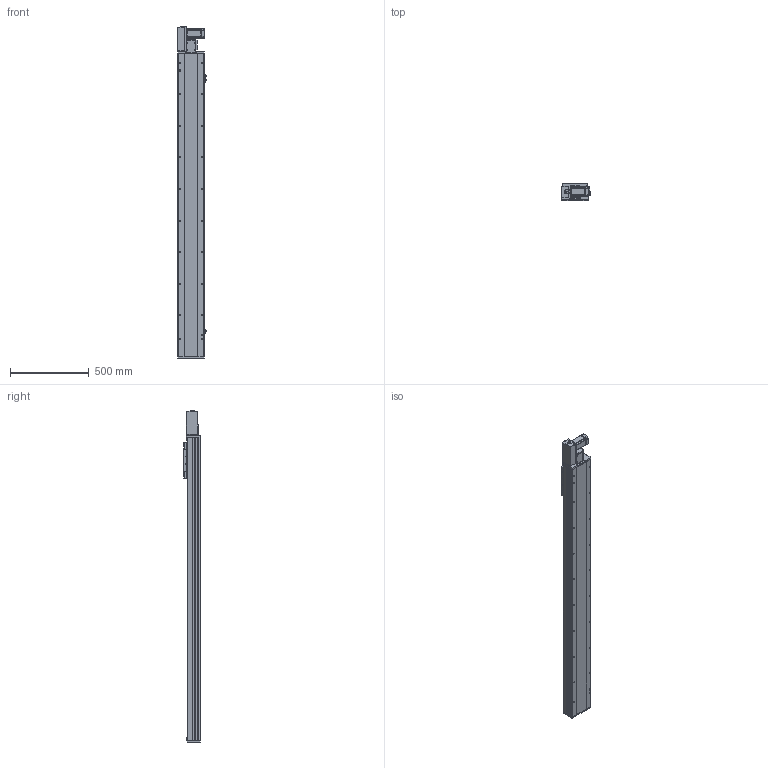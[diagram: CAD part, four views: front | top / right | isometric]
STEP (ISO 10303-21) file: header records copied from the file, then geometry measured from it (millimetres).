
FILE_DESCRIPTION (( 'STEP AP214' ), '1' );
FILE_NAME ('TPE17-L40-1600-L-T40-C4.STEP', '2023-04-12T02:28:45', ( '' ), ( '' ), 'SwSTEP 2.0', 'SolidWorks 2020', '' );
FILE_SCHEMA (( 'AUTOMOTIVE_DESIGN' ));
Length unit declared in the file: millimetre
Products named in the file (12): 葩璃 TPE17-L-002 耜裔ZTMZ-135-04^TPE17-L40-L-T40-C4; 葩璃 詩湍110^TPE17-L40-L-T40-C4; 葩璃 TPE17 賑雄殤^TPE17-L40-L-T40-C4; TPE17-L40-1600-L-T40-C4; 葩璃 侂狟400W^TPE17-L40-L-T40-C4; hex nuts, style 1-grades ab gb_GB_FASTENER_NUT_SNAB1 M3-N; 葩璃 TPE17-L-007 々湍釱MZ-169x88^TPE17-L40-L-T40-C4_TPE17; 葩璃 TPT14-L-009 萇儂啣^TPE17-L40-L-T40-C4_400W; 葩璃 TPE17-L-001 菁釱MZ-170-01^TPE17-L40-L-T40-C4; hexagon head bolts-full thread gb_GB_FASTENER_BOLT_STBAB A M5X16-N; hexagon socket head cap screws gb_GB_FASTENER_SCREWS_HSHCS M3X6-N; 葩璃 pm-t65-672^TPE17-L40-L-T40-C4
Assembly tree (24 placements, depth 2):
  TPE17-L40-1600-L-T40-C4
    葩璃 TPE17-L-001 菁釱MZ-170-01^TPE17-L40-L-T40-C4
    葩璃 TPE17-L-002 耜裔ZTMZ-135-04^TPE17-L40-L-T40-C4  x2
    葩璃 詩湍110^TPE17-L40-L-T40-C4
    葩璃 TPE17-L-007 々湍釱MZ-169x88^TPE17-L40-L-T40-C4_TPE17
    葩璃 TPT14-L-009 萇儂啣^TPE17-L40-L-T40-C4_400W
    葩璃 TPE17 賑雄殤^TPE17-L40-L-T40-C4
    葩璃 pm-t65-672^TPE17-L40-L-T40-C4  x3
    葩璃 侂狟400W^TPE17-L40-L-T40-C4
    hexagon socket head cap screws gb_GB_FASTENER_SCREWS_HSHCS M3X6-N  x6
    hex nuts, style 1-grades ab gb_GB_FASTENER_NUT_SNAB1 M3-N  x6
    hexagon head bolts-full thread gb_GB_FASTENER_BOLT_STBAB A M5X16-N
Bounding box: 183.7 x 107 x 2103.65 mm (x, y, z)
Volume: 17931192.4 mm3; surface area: 2338256.3 mm2
Topology: 35 solids, 35 shells, 1722 faces, 4387 edges, 2758 vertices
Faces by surface type: plane 981, cylinder 477, cone 218, bspline 34, torus 12
Entity records: 40607 total; most frequent: CARTESIAN_POINT 7922, DIRECTION 6512, ORIENTED_EDGE 6278, EDGE_CURVE 3139, AXIS2_PLACEMENT_3D 2221, LINE 2070, VECTOR 2070, VERTEX_POINT 2021
